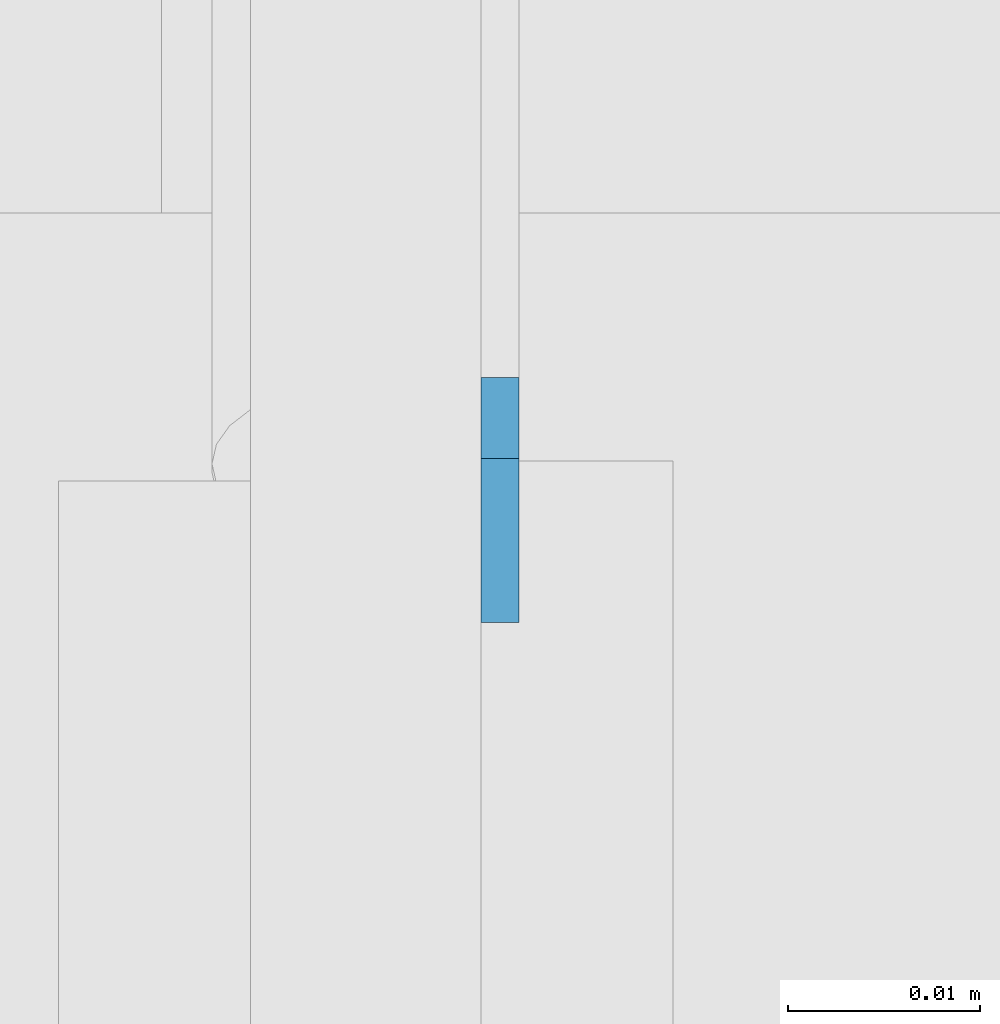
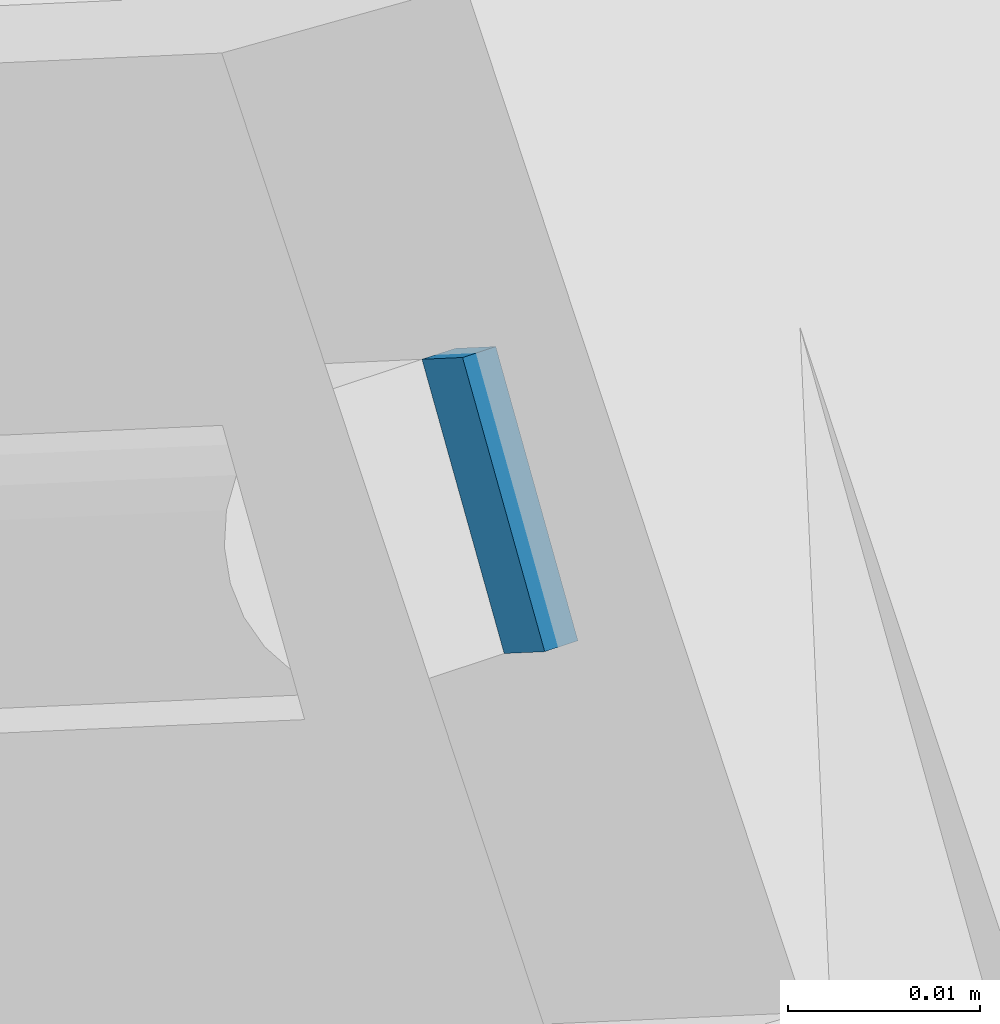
# One storey, part 199 of 271: 1 plate, 1 element without a shape of its own.
"""IFC2X3 building model written with IfcOpenShell, lengths in millimetres."""

from ifc_helpers import new_model, si_unit, frame, origin_with_axes, place, context, subcontext, project, spatial, polyline, outline, extrude, material, type_object, element, aggregate, save


model = new_model("IFC2X3")

# Units and contexts
model_context = context("Model", 3, precision=1e-05, world=origin_with_axes())
body_context = subcontext(model_context, "Body", "Model", "MODEL_VIEW")
ifc_project = project(units=[si_unit("LENGTHUNIT", "METRE", prefix="MILLI"), si_unit("AREAUNIT", "SQUARE_METRE"), si_unit("VOLUMEUNIT", "CUBIC_METRE"), si_unit("MASSUNIT", "GRAM", prefix="KILO"), si_unit("TIMEUNIT", "SECOND"), si_unit("PLANEANGLEUNIT", "RADIAN"), si_unit("SOLIDANGLEUNIT", "STERADIAN"), si_unit("THERMODYNAMICTEMPERATUREUNIT", "DEGREE_CELSIUS"), si_unit("LUMINOUSINTENSITYUNIT", "LUMEN")], contexts=[model_context])

# Site, building, storey
site_placement = place(None, origin_with_axes())
site = spatial("IfcSite", under=ifc_project, at=site_placement, Name="Undefined", CompositionType="ELEMENT")
building_placement = place(site_placement, origin_with_axes())
building = spatial("IfcBuilding", under=site, at=building_placement, Name="Undefined", CompositionType="ELEMENT")
storey_placement = place(building_placement, origin_with_axes())
storey = spatial("IfcBuildingStorey", under=building, at=storey_placement, Name="Undefined", CompositionType="ELEMENT", Elevation=0.0)

# Assembly, plate
assembly_placement = place(storey_placement, origin_with_axes())
assembly = element("IfcElementAssembly", 1, at=assembly_placement, inside=storey, AssemblyPlace="NOTDEFINED", PredefinedType="RIGID_FRAME")
ifc_material = material(Name="STEEL/S355JR")
plate_type = type_object("IfcPlateType", Name="BL5*2", PredefinedType="NOTDEFINED")
plate_placement = place(assembly_placement, frame((106.99999969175, 229.321827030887, 1241.97971730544), z_axis=(0.0, 0.84477188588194, -0.535126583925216), x_axis=(0.0, -0.535126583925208, -0.844771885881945)))
plate = element("IfcPlate", 2, at=plate_placement, type_object=plate_type, material=ifc_material, Name="BLACHA", ObjectType="BL5*2", context=body_context, shape_type="SweptSolid", body=[
    extrude(outline(polyline([(0.0, 0.0), (15.9999980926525, -7.67386154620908e-13), (15.9999980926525, 1.99999964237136), (0.0, 1.99999964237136), (0.0, 0.0)])), frame((0.0, 0.0, -2.5), z_axis=(0.0, 0.0, 1.0), x_axis=(1.0, 0.0, 0.0)), (0.0, 0.0, 1.0), 5.0),
])
aggregate(assembly, [plate])

save(model, "model.ifc")
